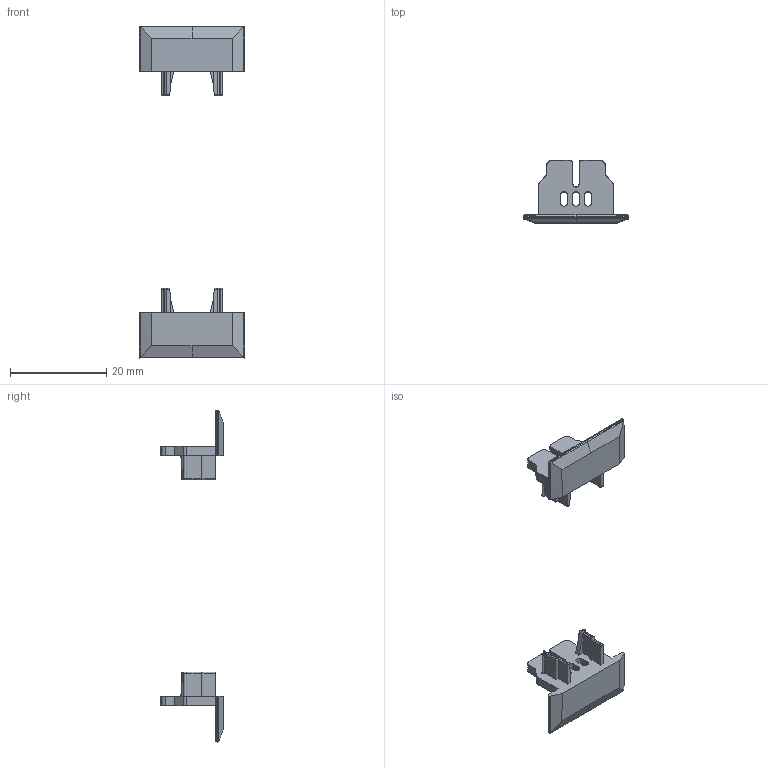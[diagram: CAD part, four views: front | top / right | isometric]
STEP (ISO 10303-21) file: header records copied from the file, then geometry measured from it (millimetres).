
FILE_DESCRIPTION(/* description */ (''),/* implementation_level */ '2;1');
FILE_NAME(/* name */ 'ENDKAPPE-1024598_stp.stp',/* time_stamp */ '2019-06-11T13:25:55+02:00',/* author */ (''),/* organization */ (''),/* preprocessor_version */ 'ST-DEVELOPER v16.7',/* originating_system */ 'SIEMENS PLM Software NX 12.0',/* authorisation */ '');
FILE_SCHEMA (('AUTOMOTIVE_DESIGN { 1 0 10303 214 3 1 1 1 }'));
Length unit declared in the file: millimetre
Products named in the file (1): p.sc21B4B528x4ns
Bounding box: 21.9 x 13.05 x 69 mm (x, y, z)
Volume: 1304.5 mm3; surface area: 2085.6 mm2
Topology: 2 solids, 2 shells, 278 faces, 716 edges, 446 vertices
Faces by surface type: plane 120, cylinder 120, bspline 28, cone 10
Entity records: 9017 total; most frequent: CARTESIAN_POINT 2545, ORIENTED_EDGE 1432, DIRECTION 1184, EDGE_CURVE 716, VERTEX_POINT 446, LINE 402, VECTOR 402, AXIS2_PLACEMENT_3D 391
